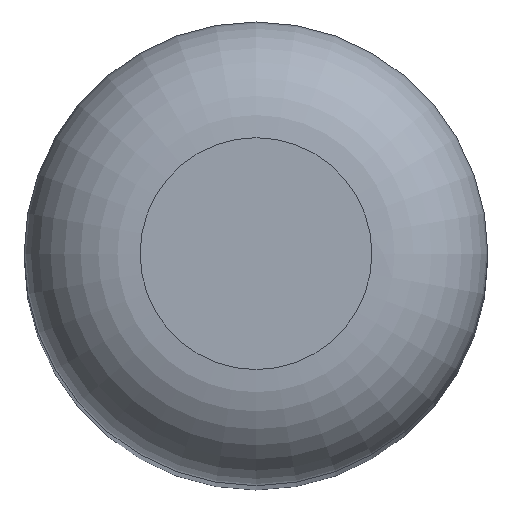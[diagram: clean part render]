
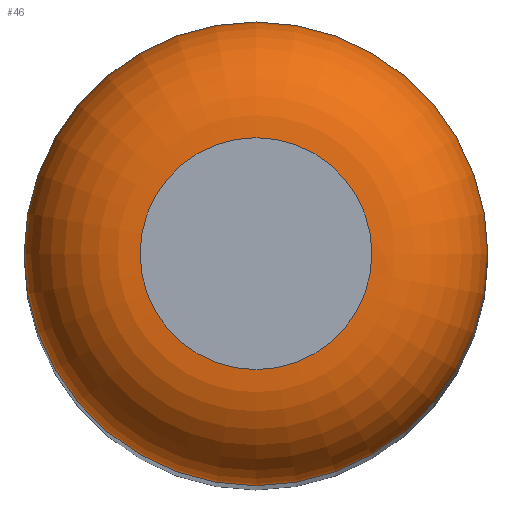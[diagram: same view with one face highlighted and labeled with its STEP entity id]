
A CAD part, top view. The second image highlights one B-rep face of the part: STEP entity #46.
In plain terms, the highlighted toroidal (fillet/blend) face has major radius 10 mm and minor radius 10 mm.
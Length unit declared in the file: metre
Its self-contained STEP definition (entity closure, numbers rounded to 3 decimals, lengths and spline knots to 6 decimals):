
#12=TOROIDAL_SURFACE('',#66,0.01,0.01);
#19=ORIENTED_EDGE('',*,*,#21,.F.);
#20=ORIENTED_EDGE('',*,*,#23,.F.);
#21=EDGE_CURVE('',#24,#24,#27,.F.);
#23=EDGE_CURVE('',#26,#26,#29,.T.);
#24=VERTEX_POINT('',#86);
#26=VERTEX_POINT('',#91);
#27=CIRCLE('',#61,0.02);
#29=CIRCLE('',#64,0.01);
#34=EDGE_LOOP('',(#19));
#35=EDGE_LOOP('',(#20));
#40=FACE_BOUND('',#34,.T.);
#41=FACE_BOUND('',#35,.T.);
#46=ADVANCED_FACE('',(#40,#41),#12,.T.);
#61=AXIS2_PLACEMENT_3D('',#85,#71,#72);
#64=AXIS2_PLACEMENT_3D('',#90,#77,#78);
#66=AXIS2_PLACEMENT_3D('',#93,#81,#82);
#71=DIRECTION('',(0.,0.,1.));
#72=DIRECTION('',(1.,0.,0.));
#77=DIRECTION('',(0.,0.,1.));
#78=DIRECTION('',(1.,0.,0.));
#81=DIRECTION('',(0.,0.,1.));
#82=DIRECTION('',(1.,0.,0.));
#85=CARTESIAN_POINT('',(-0.012724,-0.023759,0.212));
#86=CARTESIAN_POINT('',(0.007276,-0.023759,0.212));
#90=CARTESIAN_POINT('',(-0.012724,-0.023759,0.222));
#91=CARTESIAN_POINT('',(-0.002724,-0.023759,0.222));
#93=CARTESIAN_POINT('',(-0.012724,-0.023759,0.212));
